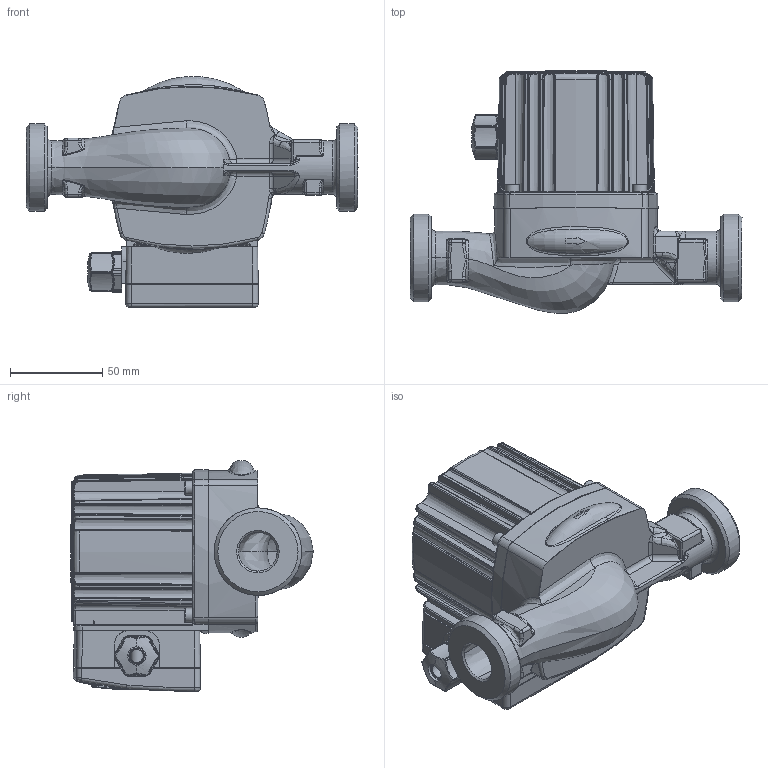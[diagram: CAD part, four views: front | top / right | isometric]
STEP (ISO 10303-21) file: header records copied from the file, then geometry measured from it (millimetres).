
FILE_DESCRIPTION(('STEP AP242'), '1');
FILE_NAME('VRS.254.18 256.18', '2025-10-08T11:52:08', (''), (''), 'C3D Converter', 'C3D Toolkit', '');
FILE_SCHEMA(('AP242_MANAGED_MODEL_BASED_3D_ENGINEERING_MIM_LF { 1 0 10303 442 1 1 4 }'));
Length unit declared in the file: millimetre
Products named in the file (1): 25-4E-180_ASM
Bounding box: 180 x 131.61 x 125.17 mm (x, y, z)
Volume: 299591.1 mm3; surface area: 175387.6 mm2
Topology: 7 solids, 26 shells, 2522 faces, 6330 edges, 3815 vertices
Faces by surface type: cylinder 677, plane 672, bspline 503, torus 484, cone 115, sphere 66, extrusion 5
Full cylindrical faces by diameter (mm): 3 x4, 3.3 x4, 4 x6, 4.2 x4, 4.5 x3, 5 x7, 7 x3, 7.5 x5, 7.6 x4, 8 x2, 9 x2, 10 x3, 12 x1, 14 x2, 16 x1, 17.1 x1, 19 x2, 21 x1, 23.5 x1, 25.6 x1, 26 x1, 28 x1, 28.5 x1, 29 x1, 32.5 x1, 35.5 x1, 38.25 x1, 39 x1, 47.5 x2, 71 x1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
Entity records: 250471 total; most frequent: CARTESIAN_POINT 189003, ORIENTED_EDGE 11990, DIRECTION 7967, EDGE_CURVE 5995, VERTEX_POINT 3771, AXIS2_PLACEMENT_3D 3190, B_SPLINE_CURVE_WITH_KNOTS 3129, EDGE_LOOP 2779
